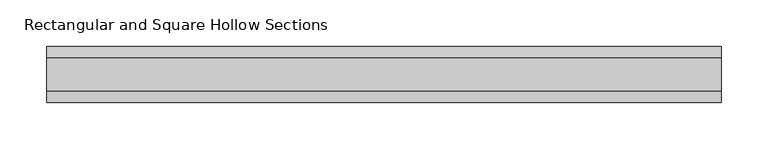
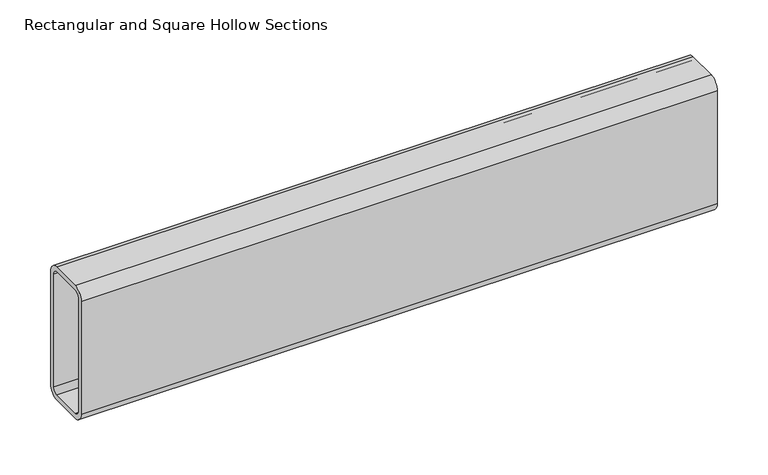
"""IFC4 building model written with IfcOpenShell, lengths in millimetres: beam geometry, Rectangular and Square Hollow Sections : TREC160x60x6."""

from ifc_helpers import new_model, si_unit, point, frame, frame_2d, origin, place, context, project, spatial, polyline, circle_curve, trimmed, segment, composite_curve, outline, extrude, source, transform, mapped, element, save


def rectangular_and_square_hollow_sections_3794f67f(model_context):
    return source(origin(), model_context, "Body", "SweptSolid", [
        extrude(outline(composite_curve([segment(polyline([(30.0, 68.0), (30.0, -68.0)]), True, "CONTINUOUS"), segment(trimmed(circle_curve(frame_2d((18.0, -68.0)), 12.0), [point((30.0, -68.0))], [point((18.0, -80.0))], False, "CARTESIAN"), True, "CONTINUOUS"), segment(polyline([(18.0, -80.0), (-18.0, -80.0)]), True, "CONTINUOUS"), segment(trimmed(circle_curve(frame_2d((-18.0, -68.0)), 12.0), [point((-18.0, -80.0))], [point((-30.0, -68.0))], False, "CARTESIAN"), True, "CONTINUOUS"), segment(polyline([(-30.0, -68.0), (-30.0, 68.0)]), True, "CONTINUOUS"), segment(trimmed(circle_curve(frame_2d((-18.0, 68.0)), 12.0), [point((-30.0, 68.0))], [point((-18.0, 80.0))], False, "CARTESIAN"), True, "CONTINUOUS"), segment(polyline([(-18.0, 80.0), (18.0, 80.0)]), True, "CONTINUOUS"), segment(trimmed(circle_curve(frame_2d((18.0, 68.0)), 12.0), [point((18.0, 80.0))], [point((30.0, 68.0))], False, "CARTESIAN"), True, "CONTINUOUS")], self_intersect=False), holes=[composite_curve([segment(trimmed(circle_curve(frame_2d((-18.0, 68.0)), 6.0), [point((-18.0, 74.0))], [point((-24.0, 68.0))], True, "CARTESIAN"), True, "CONTINUOUS"), segment(polyline([(-24.0, 68.0), (-24.0, -68.0)]), True, "CONTINUOUS"), segment(trimmed(circle_curve(frame_2d((-18.0, -68.0)), 6.0), [point((-24.0, -68.0))], [point((-18.0, -74.0))], True, "CARTESIAN"), True, "CONTINUOUS"), segment(polyline([(-18.0, -74.0), (18.0, -74.0)]), True, "CONTINUOUS"), segment(trimmed(circle_curve(frame_2d((18.0, -68.0)), 6.0), [point((18.0, -74.0))], [point((24.0, -68.0))], True, "CARTESIAN"), True, "CONTINUOUS"), segment(polyline([(24.0, -68.0), (24.0, 68.0)]), True, "CONTINUOUS"), segment(trimmed(circle_curve(frame_2d((18.0, 68.0)), 6.0), [point((24.0, 68.0))], [point((18.0, 74.0))], True, "CARTESIAN"), True, "CONTINUOUS"), segment(polyline([(18.0, 74.0), (-18.0, 74.0)]), True, "CONTINUOUS")], self_intersect=False)]), frame((-340.5, 0.0, 0.0), z_axis=(1.0, 0.0, 0.0), x_axis=(0.0, 1.0, 0.0)), (0.0, 0.0, 1.0), 724.0),
    ])


if __name__ == "__main__":
    model = new_model("IFC4")
    model_context = context("Model", 3, world=origin())
    ifc_project = project(units=[si_unit("LENGTHUNIT", "METRE", prefix="MILLI")], contexts=[model_context])
    site = spatial("IfcSite", under=ifc_project)
    building = spatial("IfcBuilding", under=site)
    placement = place(None, origin())
    rectangular_and_square_hollow_sections_shape = rectangular_and_square_hollow_sections_3794f67f(model_context)
    element("IfcBeam", 1, ObjectType="Rectangular and Square Hollow Sections : TREC160x60x6", at=placement, inside=building, context=model_context, shape_type="MappedRepresentation", body=[
        mapped(rectangular_and_square_hollow_sections_shape, transform((0.0, 0.0, 0.0), x_axis=(1.0, 0.0, 0.0), y_axis=(0.0, 1.0, 0.0), z_axis=(0.0, 0.0, 1.0))),
    ])
    save(model, "model.ifc")
